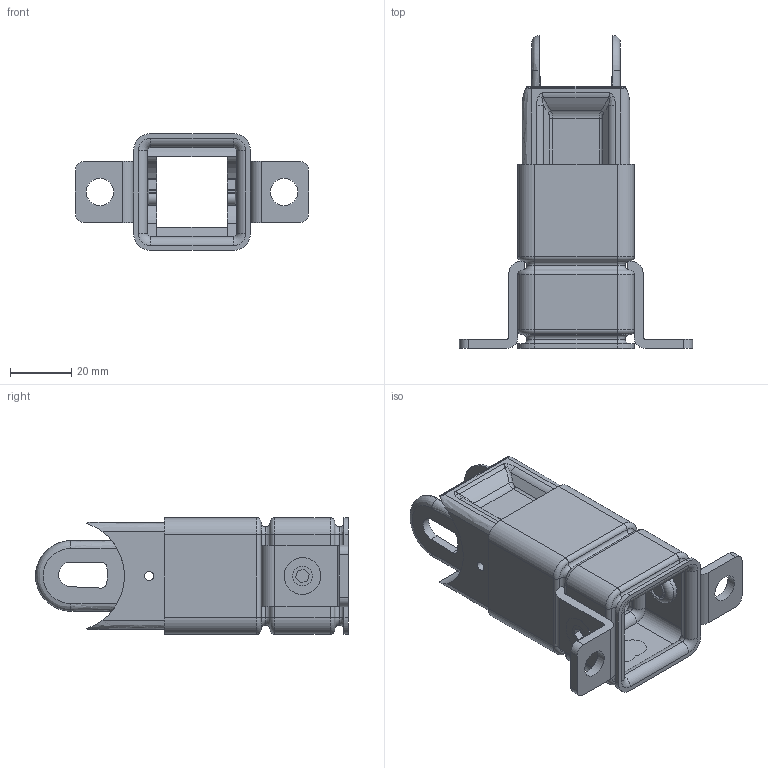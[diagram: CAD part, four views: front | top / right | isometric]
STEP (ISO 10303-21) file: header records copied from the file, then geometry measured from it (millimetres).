
FILE_DESCRIPTION((''),'2;1');
FILE_NAME('E:\Uebbing\KATALOG\3D\PFR\PFR 121\PFR 121 Anschluss B.stp','2010-08-16T12:31:47',('UebbingXP'),(''),'Autodesk Inventor 10','Autodesk Inventor 10','');
FILE_SCHEMA(('AUTOMOTIVE_DESIGN { 1 0 10303 214 1 1 1 1 }'));
Length unit declared in the file: millimetre
Products named in the file (6): PFR 121 Anschluss B; PFR121 Anschluss B; Anschlusswinkel; Imbusschraube M6x5 Senkkopf; Rändelmutter M6 flach; PFR121-75 
Assembly tree (8 placements, depth 2):
  PFR 121 Anschluss B
    PFR121 Anschluss B
    Anschlusswinkel  x2
    Imbusschraube M6x5 Senkkopf  x2
    Rändelmutter M6 flach  x2
    PFR121-75 
Bounding box: 76 x 102 x 38 mm (x, y, z)
Volume: 37264.4 mm3; surface area: 36274.2 mm2
Topology: 8 solids, 8 shells, 443 faces, 1042 edges, 616 vertices
Faces by surface type: cylinder 147, plane 129, bspline 124, torus 35, cone 8
Full cylindrical faces by diameter (mm): 3 x1, 6 x4, 6.5 x2, 9 x4, 9.2 x2, 11 x2, 12 x2
Entity records: 15491 total; most frequent: CARTESIAN_POINT 6484, DIRECTION 1854, ORIENTED_EDGE 1828, EDGE_CURVE 914, AXIS2_PLACEMENT_3D 709, VERTEX_POINT 548, EDGE_LOOP 448, VECTOR 436
